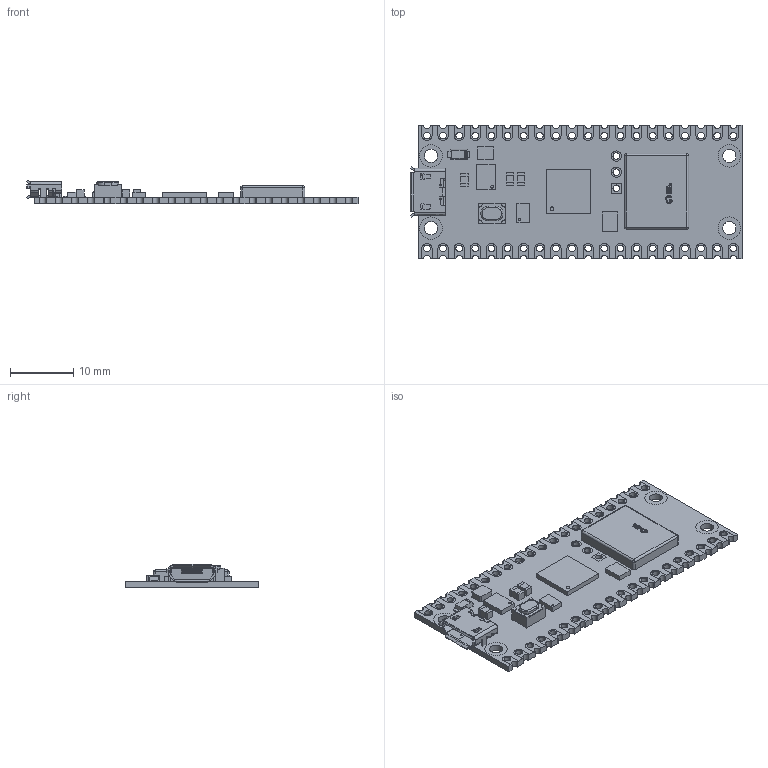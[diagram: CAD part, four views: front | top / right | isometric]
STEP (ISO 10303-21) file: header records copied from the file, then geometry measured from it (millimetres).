
FILE_DESCRIPTION (( 'STEP AP214' ), '1' );
FILE_NAME ('���23.STEP', '2024-07-10T10:19:03', ( '' ), ( '' ), 'SwSTEP 2.0', 'SolidWorks 2021', '' );
FILE_SCHEMA (( 'AUTOMOTIVE_DESIGN' ));
Length unit declared in the file: millimetre
Products named in the file (1): ���23
Bounding box: 52.3 x 21 x 3.72 mm (x, y, z)
Volume: 1369.8 mm3; surface area: 2889.3 mm2
Topology: 18 solids, 18 shells, 1844 faces, 5245 edges, 3485 vertices
Faces by surface type: bspline 863, plane 638, cylinder 336, sphere 4, torus 3
Entity records: 82138 total; most frequent: CARTESIAN_POINT 20661, ORIENTED_EDGE 10482, DIRECTION 5495, EDGE_CURVE 5241, VERTEX_POINT 3485, B_SPLINE_CURVE_WITH_KNOTS 2151, LINE 2145, VECTOR 2145
